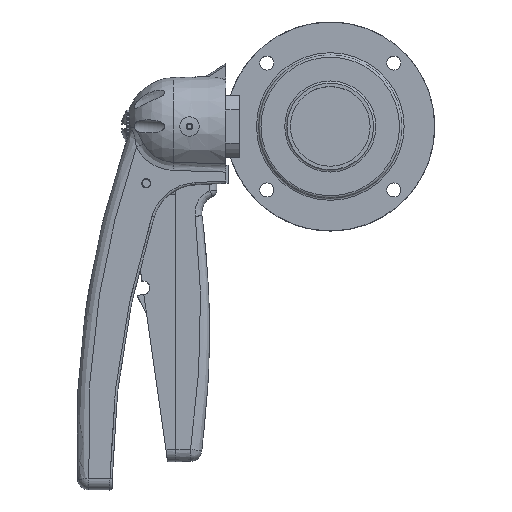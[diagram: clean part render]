
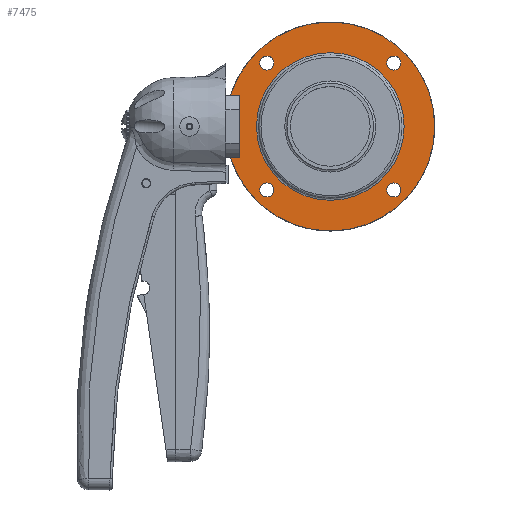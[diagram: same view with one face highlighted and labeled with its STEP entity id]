
A CAD part, top view. The second image highlights one B-rep face of the part: STEP entity #7475.
In plain terms, the highlighted planar face has unit normal (0, 0, 1).
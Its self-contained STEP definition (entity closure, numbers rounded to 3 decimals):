
#568=FACE_BOUND('',#1466,.T.);
#569=FACE_BOUND('',#1467,.T.);
#570=FACE_BOUND('',#1468,.T.);
#571=FACE_BOUND('',#1469,.T.);
#572=FACE_BOUND('',#1470,.T.);
#608=PLANE('',#8005);
#1036=FACE_OUTER_BOUND('',#1465,.T.);
#1465=EDGE_LOOP('',(#5208,#5209));
#1466=EDGE_LOOP('',(#5210,#5211));
#1467=EDGE_LOOP('',(#5212,#5213));
#1468=EDGE_LOOP('',(#5214,#5215));
#1469=EDGE_LOOP('',(#5216,#5217));
#1470=EDGE_LOOP('',(#5218,#5219));
#2969=CIRCLE('',#7949,3.1);
#2970=CIRCLE('',#7950,3.1);
#2972=CIRCLE('',#7953,3.1);
#2973=CIRCLE('',#7954,3.1);
#2975=CIRCLE('',#7957,3.1);
#2976=CIRCLE('',#7958,3.1);
#2978=CIRCLE('',#7961,3.1);
#2979=CIRCLE('',#7962,3.1);
#3007=CIRCLE('',#8003,32.5);
#3008=CIRCLE('',#8004,32.5);
#3009=CIRCLE('',#8006,46.);
#3010=CIRCLE('',#8007,46.);
#3270=VERTEX_POINT('',#10545);
#3271=VERTEX_POINT('',#10546);
#3273=VERTEX_POINT('',#10553);
#3274=VERTEX_POINT('',#10554);
#3276=VERTEX_POINT('',#10561);
#3277=VERTEX_POINT('',#10562);
#3279=VERTEX_POINT('',#10569);
#3280=VERTEX_POINT('',#10570);
#3307=VERTEX_POINT('',#10664);
#3308=VERTEX_POINT('',#10666);
#3309=VERTEX_POINT('',#10670);
#3310=VERTEX_POINT('',#10671);
#3993=EDGE_CURVE('',#3270,#3271,#2969,.T.);
#3994=EDGE_CURVE('',#3271,#3270,#2970,.T.);
#3997=EDGE_CURVE('',#3273,#3274,#2972,.T.);
#3998=EDGE_CURVE('',#3274,#3273,#2973,.T.);
#4001=EDGE_CURVE('',#3276,#3277,#2975,.T.);
#4002=EDGE_CURVE('',#3277,#3276,#2976,.T.);
#4005=EDGE_CURVE('',#3279,#3280,#2978,.T.);
#4006=EDGE_CURVE('',#3280,#3279,#2979,.T.);
#4043=EDGE_CURVE('',#3308,#3307,#3007,.T.);
#4044=EDGE_CURVE('',#3307,#3308,#3008,.T.);
#4045=EDGE_CURVE('',#3309,#3310,#3009,.T.);
#4046=EDGE_CURVE('',#3310,#3309,#3010,.T.);
#5208=ORIENTED_EDGE('',*,*,#4045,.F.);
#5209=ORIENTED_EDGE('',*,*,#4046,.F.);
#5210=ORIENTED_EDGE('',*,*,#3993,.T.);
#5211=ORIENTED_EDGE('',*,*,#3994,.T.);
#5212=ORIENTED_EDGE('',*,*,#3997,.T.);
#5213=ORIENTED_EDGE('',*,*,#3998,.T.);
#5214=ORIENTED_EDGE('',*,*,#4001,.T.);
#5215=ORIENTED_EDGE('',*,*,#4002,.T.);
#5216=ORIENTED_EDGE('',*,*,#4005,.T.);
#5217=ORIENTED_EDGE('',*,*,#4006,.T.);
#5218=ORIENTED_EDGE('',*,*,#4043,.T.);
#5219=ORIENTED_EDGE('',*,*,#4044,.T.);
#7475=ADVANCED_FACE('',(#1036,#568,#569,#570,#571,#572),#608,.T.);
#7949=AXIS2_PLACEMENT_3D('',#10547,#8640,#8641);
#7950=AXIS2_PLACEMENT_3D('',#10548,#8642,#8643);
#7953=AXIS2_PLACEMENT_3D('',#10555,#8649,#8650);
#7954=AXIS2_PLACEMENT_3D('',#10556,#8651,#8652);
#7957=AXIS2_PLACEMENT_3D('',#10563,#8658,#8659);
#7958=AXIS2_PLACEMENT_3D('',#10564,#8660,#8661);
#7961=AXIS2_PLACEMENT_3D('',#10571,#8667,#8668);
#7962=AXIS2_PLACEMENT_3D('',#10572,#8669,#8670);
#8003=AXIS2_PLACEMENT_3D('',#10667,#8759,#8760);
#8004=AXIS2_PLACEMENT_3D('',#10668,#8761,#8762);
#8005=AXIS2_PLACEMENT_3D('',#10669,#8763,#8764);
#8006=AXIS2_PLACEMENT_3D('',#10672,#8765,#8766);
#8007=AXIS2_PLACEMENT_3D('',#10673,#8767,#8768);
#8640=DIRECTION('center_axis',(0.,0.,-1.));
#8641=DIRECTION('ref_axis',(0.,1.,0.));
#8642=DIRECTION('center_axis',(0.,0.,-1.));
#8643=DIRECTION('ref_axis',(0.,1.,0.));
#8649=DIRECTION('center_axis',(0.,0.,-1.));
#8650=DIRECTION('ref_axis',(-1.,0.,0.));
#8651=DIRECTION('center_axis',(0.,0.,-1.));
#8652=DIRECTION('ref_axis',(-1.,0.,0.));
#8658=DIRECTION('center_axis',(0.,0.,-1.));
#8659=DIRECTION('ref_axis',(0.,-1.,0.));
#8660=DIRECTION('center_axis',(0.,0.,-1.));
#8661=DIRECTION('ref_axis',(0.,-1.,0.));
#8667=DIRECTION('center_axis',(0.,0.,-1.));
#8668=DIRECTION('ref_axis',(1.,0.,0.));
#8669=DIRECTION('center_axis',(0.,0.,-1.));
#8670=DIRECTION('ref_axis',(1.,0.,0.));
#8759=DIRECTION('center_axis',(0.,0.,-1.));
#8760=DIRECTION('ref_axis',(0.,1.,0.));
#8761=DIRECTION('center_axis',(0.,0.,-1.));
#8762=DIRECTION('ref_axis',(0.,1.,0.));
#8763=DIRECTION('center_axis',(0.,0.,1.));
#8764=DIRECTION('ref_axis',(1.,0.,0.));
#8765=DIRECTION('center_axis',(0.,0.,-1.));
#8766=DIRECTION('ref_axis',(0.,1.,0.));
#8767=DIRECTION('center_axis',(0.,0.,-1.));
#8768=DIRECTION('ref_axis',(0.,1.,0.));
#10545=CARTESIAN_POINT('',(27.931,-24.831,10.));
#10546=CARTESIAN_POINT('',(27.931,-31.031,10.));
#10547=CARTESIAN_POINT('Origin',(27.931,-27.931,10.));
#10548=CARTESIAN_POINT('Origin',(27.931,-27.931,10.));
#10553=CARTESIAN_POINT('',(24.831,27.931,10.));
#10554=CARTESIAN_POINT('',(31.031,27.931,10.));
#10555=CARTESIAN_POINT('Origin',(27.931,27.931,10.));
#10556=CARTESIAN_POINT('Origin',(27.931,27.931,10.));
#10561=CARTESIAN_POINT('',(-27.931,24.831,10.));
#10562=CARTESIAN_POINT('',(-27.931,31.031,10.));
#10563=CARTESIAN_POINT('Origin',(-27.931,27.931,10.));
#10564=CARTESIAN_POINT('Origin',(-27.931,27.931,10.));
#10569=CARTESIAN_POINT('',(-24.831,-27.931,10.));
#10570=CARTESIAN_POINT('',(-31.031,-27.931,10.));
#10571=CARTESIAN_POINT('Origin',(-27.931,-27.931,10.));
#10572=CARTESIAN_POINT('Origin',(-27.931,-27.931,10.));
#10664=CARTESIAN_POINT('',(32.5,0.,10.));
#10666=CARTESIAN_POINT('',(0.,32.5,10.));
#10667=CARTESIAN_POINT('Origin',(0.,0.,10.));
#10668=CARTESIAN_POINT('Origin',(0.,0.,10.));
#10669=CARTESIAN_POINT('Origin',(0.,39.25,10.));
#10670=CARTESIAN_POINT('',(0.,46.,10.));
#10671=CARTESIAN_POINT('',(0.,-46.,10.));
#10672=CARTESIAN_POINT('Origin',(0.,0.,10.));
#10673=CARTESIAN_POINT('Origin',(0.,0.,10.));
